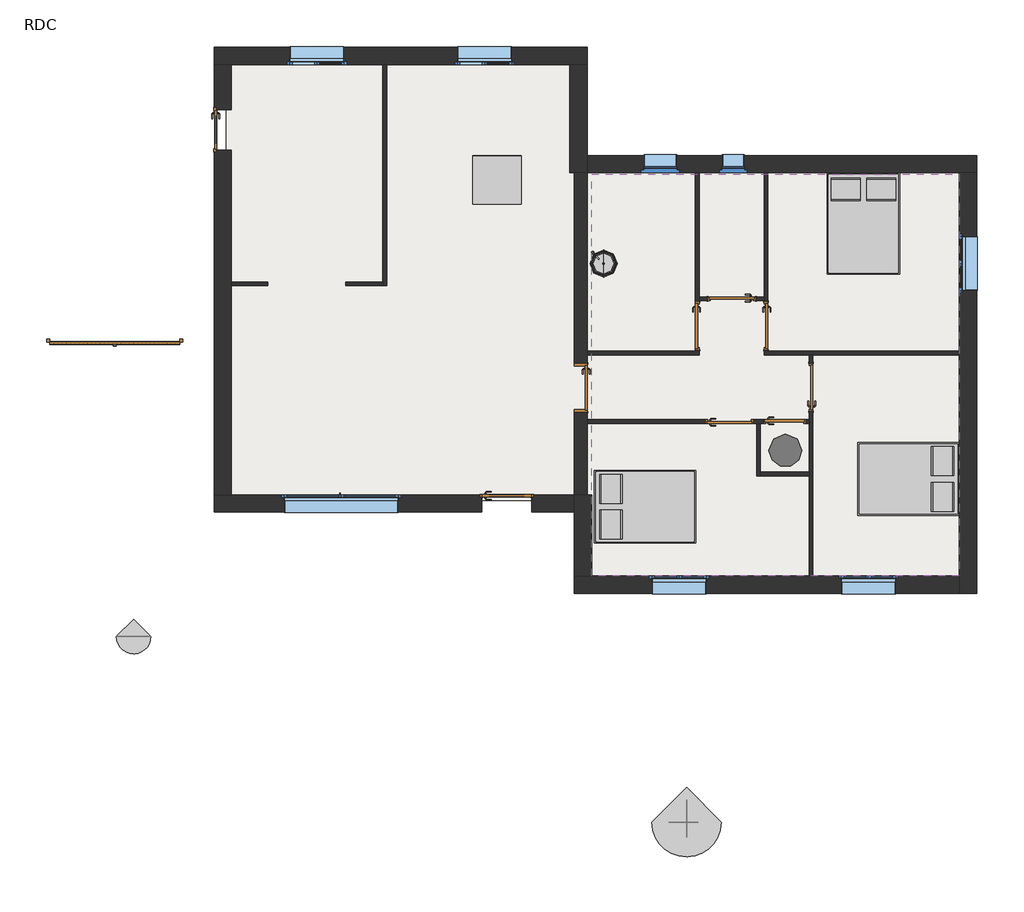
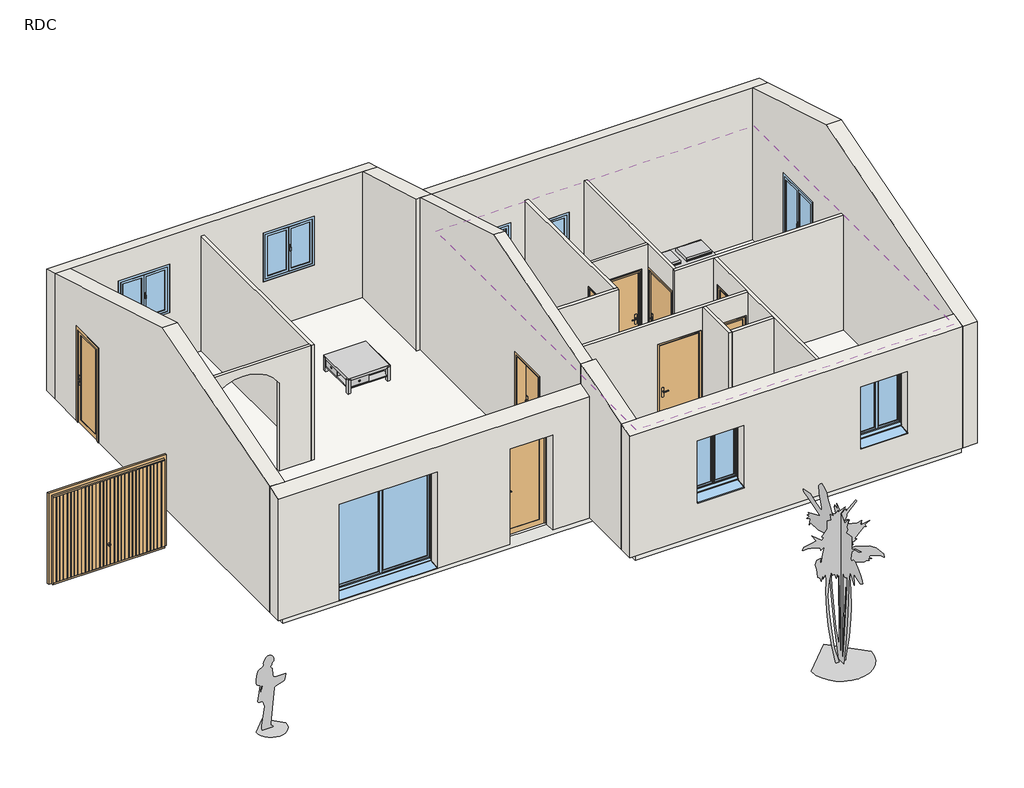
# One storey, incomplete: 20 walls, 10 doors, 8 windows, 4 furniture elements, 2 flow terminals, 1 covering, 1 geographic element, 1 proxy, 1 slab.
"""IFC4 building model written with IfcOpenShell, lengths in millimetres."""

from ifc_helpers import new_model, si_unit, point, frame, frame_2d, origin, origin_with_axes, place, context, project, spatial, polyline, circle_curve, trimmed, segment, composite_curve, outline, extrude, faceted_brep, transform, mapped, element, save
from components import entourage_7b1a36b3, door_2_4m_x_2m_68821987, ext_simple_6eb875e1, int_simple_pp_0_73m_x_2_04m_d65dadfb, int_simple_pp_0_83m_x_2_04m_8f139ac8, int_simple_pp_0_83m_x_2_04m_a8378473, int_simple_pp_0_83m_x_2_04m_8f699385, panneau_plein_ouverture_ext_0_73m_x_2_10m_1ae509ba, flow_terminal_82346989, flow_terminal_ca0f13d3, lit_double_01_1346mm_x_1880mm_c10bd567, table_basse_900mm_x_900mm_x_350mm_34ae0bd3, rpc_arbre_tropical_cbeb6f3c, window_1_vantail_droit_5c4c0683, window_1_vantail_droit_0_40m_x_0_75m_appui_alu_6d79ef9c, window_1m_x_1_05m_appui_alu_b6acc50f, window_1m_x_1_35m_appui_alu_10ebf275, window_2_10_x_2_15_0009b032

model = new_model("IFC4")

# Units and contexts
model_context = context("Model", 3, world=origin())
ifc_project = project(units=[si_unit("LENGTHUNIT", "METRE", prefix="MILLI")], contexts=[model_context])

# Site, building, storey
site = spatial("IfcSite", under=ifc_project)
building = spatial("IfcBuilding", under=site)
storey = spatial("IfcBuildingStorey", under=building, Name="RDC", Elevation=0.0)

# Proxy
placement = place(None, origin())
entourage_shape = entourage_7b1a36b3(model_context)
element("IfcBuildingElementProxy", 1, Name="RPC Femme : Lisa", ObjectType="RPC Femme : Lisa", at=placement, inside=storey, context=model_context, shape_type="MappedRepresentation", body=[
    mapped(entourage_shape, transform((-19497.6549107, -1912.6202268, -500.0), x_axis=(1.0, 0.0, 0.0), y_axis=(0.0, 1.0, 0.0), z_axis=(0.0, 0.0, 1.0))),
])

# Covering
element("IfcCovering", 2, ObjectType="Plafond avec isolation 20 cm", at=placement, inside=storey, context=model_context, shape_type="SweptSolid", body=[
    extrude(outline(polyline([(-11428.2926959, 8667.3797732), (-11428.2926959, 707.3797732), (-17688.2926959, 707.3797732), (-17688.2926959, 8667.3797732), (-11428.2926959, 8667.3797732)])), frame((0.0, 0.0, 2600.0), z_axis=(0.0, 0.0, 1.0), x_axis=(1.0, 0.0, 0.0)), (0.0, 0.0, 1.0), 220.0),
    extrude(outline(polyline([(-4228.2926959, 6637.3797732), (-4228.2926959, -792.6202268), (-11028.2926959, -792.6202268), (-11028.2926959, 6637.3797732), (-4228.2926959, 6637.3797732)])), frame((0.0, 0.0, 2600.0), z_axis=(0.0, 0.0, 1.0), x_axis=(1.0, 0.0, 0.0)), (0.0, 0.0, 1.0), 220.0),
])

# Doors
door_2_4m_x_2m_shape = door_2_4m_x_2m_68821987(model_context)
element("IfcDoor", 3, ObjectType="Garage basculante : 2.4m x 2m", at=placement, inside=storey, context=model_context, shape_type="MappedRepresentation", body=[
    mapped(door_2_4m_x_2m_shape, transform((-19863.2926959, 3073.8274475, 0.0), x_axis=(-1.0, 0.0, 0.0), y_axis=(0.0, -1.0, 0.0), z_axis=(0.0, 0.0, 1.0))),
])
ext_simple_shape = ext_simple_6eb875e1(model_context)
element("IfcDoor", 4, ObjectType="Ext. Simple : Lisse - 0.90 m x 2.15 m", at=placement, inside=storey, context=model_context, shape_type="MappedRepresentation", body=[
    mapped(ext_simple_shape, transform((-12588.2926959, 555.3797732, 0.0), x_axis=(1.0, 0.0, 0.0), y_axis=(0.0, 1.0, 0.0), z_axis=(0.0, 0.0, 1.0))),
])
int_simple_pp_0_73m_x_2_04m_shape = int_simple_pp_0_73m_x_2_04m_d65dadfb(model_context)
element("IfcDoor", 5, ObjectType="Int. Simple : PP (0.73m x 2.04m)", at=placement, inside=storey, context=model_context, shape_type="MappedRepresentation", body=[
    mapped(int_simple_pp_0_73m_x_2_04m_shape, transform((-7423.2926959, 2062.3797732, 0.0), x_axis=(1.0, 0.0, 0.0), y_axis=(0.0, 1.0, 0.0), z_axis=(0.0, 0.0, 1.0))),
])
int_simple_pp_0_83m_x_2_04m_shape = int_simple_pp_0_83m_x_2_04m_8f139ac8(model_context)
element("IfcDoor", 6, ObjectType="Int. Simple : PP (0.83m x 2.04m)", at=placement, inside=storey, context=model_context, shape_type="MappedRepresentation", body=[
    mapped(int_simple_pp_0_83m_x_2_04m_shape, transform((-9073.2926959, 3797.3797732, 0.0), x_axis=(0.0, -1.0, 0.0), y_axis=(1.0, 0.0, 0.0), z_axis=(0.0, 0.0, 1.0))),
])
element("IfcDoor", 7, ObjectType="Int. Simple : PP (0.83m x 2.04m)", at=placement, inside=storey, context=model_context, shape_type="MappedRepresentation", body=[
    mapped(int_simple_pp_0_83m_x_2_04m_shape, transform((-8473.2926959, 4332.3797732, 0.0), x_axis=(-1.0, 0.0, 0.0), y_axis=(0.0, -1.0, 0.0), z_axis=(0.0, 0.0, 1.0))),
])
element("IfcDoor", 8, ObjectType="Int. Simple : PP (0.83m x 2.04m)", at=placement, inside=storey, context=model_context, shape_type="MappedRepresentation", body=[
    mapped(int_simple_pp_0_83m_x_2_04m_shape, transform((-6973.2926959, 2732.3797732, 0.0), x_axis=(0.0, 1.0, 0.0), y_axis=(-1.0, 0.0, 0.0), z_axis=(0.0, 0.0, 1.0))),
])
element("IfcDoor", 9, ObjectType="Int. Simple : PP (0.83m x 2.04m)", at=placement, inside=storey, context=model_context, shape_type="MappedRepresentation", body=[
    mapped(int_simple_pp_0_83m_x_2_04m_shape, transform((-8443.2926959, 2062.3797732, 0.0), x_axis=(1.0, 0.0, 0.0), y_axis=(0.0, 1.0, 0.0), z_axis=(0.0, 0.0, 1.0))),
])
int_simple_pp_0_83m_x_2_04m_2_shape = int_simple_pp_0_83m_x_2_04m_a8378473(model_context)
element("IfcDoor", 10, ObjectType="Int. Simple : PP (0.83m x 2.04m)", at=placement, inside=storey, context=model_context, shape_type="MappedRepresentation", body=[
    mapped(int_simple_pp_0_83m_x_2_04m_2_shape, transform((-7803.2926959, 3797.3797732, 0.0), x_axis=(0.0, -1.0, 0.0), y_axis=(1.0, 0.0, 0.0), z_axis=(0.0, 0.0, 1.0))),
])
int_simple_pp_0_83m_x_2_04m_3_shape = int_simple_pp_0_83m_x_2_04m_8f699385(model_context)
element("IfcDoor", 11, ObjectType="Int. Simple : PP (0.83m x 2.04m)", at=placement, inside=storey, context=model_context, shape_type="MappedRepresentation", body=[
    mapped(int_simple_pp_0_83m_x_2_04m_3_shape, transform((-11228.2926959, 2652.3797732, 0.0), x_axis=(0.0, -1.0, 0.0), y_axis=(1.0, 0.0, 0.0), z_axis=(0.0, 0.0, 1.0))),
])
panneau_plein_ouverture_ext_0_73m_x_2_10m_shape = panneau_plein_ouverture_ext_0_73m_x_2_10m_1ae509ba(model_context)
element("IfcDoor", 12, ObjectType="Panneau Plein - Ouverture ext : 0.73m x 2.10m", at=placement, inside=storey, context=model_context, shape_type="MappedRepresentation", body=[
    mapped(panneau_plein_ouverture_ext_0_73m_x_2_10m_shape, transform((-17844.4991256, 7462.3797732, 0.0), x_axis=(0.0, -1.0, 0.0), y_axis=(1.0, 0.0, 0.0), z_axis=(0.0, 0.0, 1.0))),
])

# Flow terminals
flow_terminal_shape = flow_terminal_82346989(model_context)
element("IfcFlowTerminal", 13, ObjectType="Lavabo moderne : Lavabo moderne", at=placement, inside=storey, context=model_context, shape_type="MappedRepresentation", body=[
    mapped(flow_terminal_shape, transform((-11108.2926959, 4962.5299066, 0.0), x_axis=(0.0, 1.0, 0.0), y_axis=(-1.0, 0.0, 0.0), z_axis=(0.0, 0.0, 1.0))),
])
flow_terminal_2_shape = flow_terminal_ca0f13d3(model_context)
element("IfcFlowTerminal", 14, ObjectType="Chauffe eau : Chauffe eau", at=placement, inside=storey, context=model_context, shape_type="MappedRepresentation", body=[
    mapped(flow_terminal_2_shape, transform((-7443.6942941, 1527.3797732, 0.0), x_axis=(1.0, 0.0, 0.0), y_axis=(0.0, 1.0, 0.0), z_axis=(0.0, 0.0, 1.0))),
])

# Furniture
lit_double_01_1346mm_x_1880mm_shape = lit_double_01_1346mm_x_1880mm_c10bd567(model_context)
element("IfcFurniture", 15, ObjectType="Lit double - 01 : 1346mm x 1880mm", at=placement, inside=storey, context=model_context, shape_type="MappedRepresentation", body=[
    mapped(lit_double_01_1346mm_x_1880mm_shape, transform((-6340.4451549, 5961.8092814, 0.0), x_axis=(1.0, 0.0, 0.0), y_axis=(0.0, 1.0, 0.0), z_axis=(0.0, 0.0, 1.0))),
])
element("IfcFurniture", 16, ObjectType="Lit double - 01 : 1346mm x 1880mm", at=placement, inside=storey, context=model_context, shape_type="MappedRepresentation", body=[
    mapped(lit_double_01_1346mm_x_1880mm_shape, transform((-10275.7222041, 148.2273142, 0.0), x_axis=(0.0, 1.0, 0.0), y_axis=(-1.0, 0.0, 0.0), z_axis=(0.0, 0.0, 1.0))),
])
element("IfcFurniture", 17, ObjectType="Lit double - 01 : 1346mm x 1880mm", at=placement, inside=storey, context=model_context, shape_type="MappedRepresentation", body=[
    mapped(lit_double_01_1346mm_x_1880mm_shape, transform((-4933.8631877, 1339.5322322, 0.0), x_axis=(0.0, -1.0, 0.0), y_axis=(1.0, 0.0, 0.0), z_axis=(0.0, 0.0, 1.0))),
])
table_basse_900mm_x_900mm_x_350mm_shape = table_basse_900mm_x_900mm_x_350mm_34ae0bd3(model_context)
element("IfcFurniture", 18, ObjectType="Table basse : 900mm x 900mm x 350mm", at=placement, inside=storey, context=model_context, shape_type="MappedRepresentation", body=[
    mapped(table_basse_900mm_x_900mm_x_350mm_shape, transform((-12768.2926959, 6261.2681964, 0.0), x_axis=(1.0, 0.0, 0.0), y_axis=(0.0, 1.0, 0.0), z_axis=(0.0, 0.0, 1.0))),
])

# Geographic element
rpc_arbre_tropical_shape = rpc_arbre_tropical_cbeb6f3c(model_context)
element("IfcGeographicElement", 19, ObjectType="RPC Arbre - Tropical : Palmier princesse - 3.6 mètres", at=placement, inside=storey, context=model_context, shape_type="MappedRepresentation", body=[
    mapped(rpc_arbre_tropical_shape, transform((-9273.2672874, -5348.1831924, -500.0), x_axis=(1.0, 0.0, 0.0), y_axis=(0.0, 1.0, 0.0), z_axis=(0.0, 0.0, 1.0))),
])

# Slab
element("IfcSlab", 20, ObjectType="dalle béton 20 cm + 7 cm carrellage", at=placement, inside=storey, context=model_context, shape_type="SweptSolid", body=[
    extrude(outline(polyline([(-11348.2926959, 8767.3797732), (-11348.2926959, 6767.3797732), (-4128.2926959, 6767.3797732), (-4128.2926959, -892.6202268), (-11108.2926959, -892.6202268), (-11108.2926959, 607.3797732), (-17788.2926959, 607.3797732), (-17788.2926959, 8767.3797732), (-11348.2926959, 8767.3797732)])), frame((0.0, 0.0, -270.0), z_axis=(0.0, 0.0, 1.0), x_axis=(1.0, 0.0, 0.0)), (0.0, 0.0, 1.0), 270.0),
])

# Walls
element("IfcWall", 21, ObjectType="Int. Plâtre 70 mm", at=placement, inside=storey, context=model_context, shape_type="Brep", body=[
    faceted_brep([(-14888.2926959, 8667.3797732, 0.0), (-14888.2926959, 4647.3797732, 0.0), (-14888.2926959, 4577.3797732, 0.0), (-14888.2926959, 4577.3797732, 2600.0), (-14888.2926959, 4647.3797732, 2600.0), (-14888.2926959, 8667.3797732, 2600.0), (-14818.2926959, 8667.3797732, 0.0), (-14818.2926959, 8667.3797732, 2600.0), (-14818.2926959, 4577.3797732, 2600.0), (-14818.2926959, 4577.3797732, 0.0)], [[[0, 1, 2, 3, 4, 5]], [[6, 7, 8, 9]], [[2, 1, 0, 6, 9]], [[5, 4, 3, 8, 7]], [[0, 5, 7, 6]], [[3, 2, 9, 8]]]),
])
element("IfcWall", 22, ObjectType="Int. Plâtre 70 mm", at=placement, inside=storey, context=model_context, shape_type="SweptSolid", body=[
    extrude(outline(composite_curve([segment(polyline([(0.0, -14888.2926959), (2600.0, -14888.2926959), (2600.0, -17688.2926959), (0.0, -17688.2926959), (0.0, -17018.2926959), (2119.049891, -17018.2926959)]), True, "CONTINUOUS"), segment(trimmed(circle_curve(frame_2d((1508.9510549, -16341.5617843)), 911.1450579), [point((2119.049891, -17018.2926959))], [point((2000.0, -15574.0617843))], True, "CARTESIAN"), True, "CONTINUOUS"), segment(polyline([(2000.0, -15574.0617843), (0.0, -15574.0617843), (0.0, -14888.2926959)]), True, "CONTINUOUS")], self_intersect=False)), frame((0.0, 4577.3797732, 0.0), z_axis=(0.0, 1.0, 0.0), x_axis=(0.0, 0.0, 1.0)), (0.0, 0.0, 1.0), 70.0),
])
element("IfcWall", 23, ObjectType="Int. Plâtre 70 mm", at=placement, inside=storey, context=model_context, shape_type="Brep", body=[
    faceted_brep([(-9108.2926959, 3367.3797732, 2600.0), (-9108.2926959, 6667.3797732, 2600.0), (-9108.2926959, 6667.3797732, 0.0), (-9108.2926959, 4282.3797732, 0.0), (-9108.2926959, 4282.3797732, 2075.0), (-9108.2926959, 3382.3797732, 2075.0), (-9108.2926959, 3382.3797732, 0.0), (-9108.2926959, 3367.3797732, 0.0), (-9038.2926959, 6667.3797732, 2600.0), (-9038.2926959, 4367.3797732, 2600.0), (-9038.2926959, 4297.3797732, 2600.0), (-9038.2926959, 3367.3797732, 2600.0), (-9038.2926959, 3367.3797732, 0.0), (-9038.2926959, 3382.3797732, 0.0), (-9038.2926959, 3382.3797732, 2075.0), (-9038.2926959, 4282.3797732, 2075.0), (-9038.2926959, 4282.3797732, 0.0), (-9038.2926959, 4297.3797732, 0.0), (-9038.2926959, 4367.3797732, 0.0), (-9038.2926959, 6667.3797732, 0.0)], [[[0, 1, 2, 3, 4, 5, 6, 7]], [[8, 9, 10, 11, 12, 13, 14, 15, 16, 17, 18, 19]], [[2, 19, 18, 17, 16, 3]], [[12, 7, 6, 13]], [[1, 0, 11, 10, 9, 8]], [[2, 1, 8, 19]], [[0, 7, 12, 11]], [[5, 14, 13, 6]], [[14, 5, 4, 15]], [[15, 4, 3, 16]]]),
])
element("IfcWall", 24, ObjectType="Int. Plâtre 70 mm", at=placement, inside=storey, context=model_context, shape_type="SweptSolid", body=[
    extrude(outline(polyline([(2600.0, -7838.2926959), (2600.0, -9038.2926959), (0.0, -9038.2926959), (0.0, -8888.2926959), (2075.0, -8888.2926959), (2075.0, -7988.2926959), (0.0, -7988.2926959), (0.0, -7838.2926959), (2600.0, -7838.2926959)])), frame((0.0, 4297.3797732, 0.0), z_axis=(0.0, 1.0, 0.0), x_axis=(0.0, 0.0, 1.0)), (0.0, 0.0, 1.0), 70.0),
])
element("IfcWall", 25, ObjectType="Int. Plâtre 70 mm", at=placement, inside=storey, context=model_context, shape_type="Brep", body=[
    faceted_brep([(-7838.2926959, 3367.3797732, 2600.0), (-7838.2926959, 4297.3797732, 2600.0), (-7838.2926959, 4367.3797732, 2600.0), (-7838.2926959, 6667.3797732, 2600.0), (-7838.2926959, 6667.3797732, 0.0), (-7838.2926959, 4367.3797732, 0.0), (-7838.2926959, 4297.3797732, 0.0), (-7838.2926959, 4282.3797732, 0.0), (-7838.2926959, 4282.3797732, 2075.0), (-7838.2926959, 3382.3797732, 2075.0), (-7838.2926959, 3382.3797732, 0.0), (-7838.2926959, 3367.3797732, 0.0), (-7768.2926959, 6667.3797732, 2600.0), (-7768.2926959, 3367.3797732, 2600.0), (-7768.2926959, 3367.3797732, 0.0), (-7768.2926959, 3382.3797732, 0.0), (-7768.2926959, 3382.3797732, 2075.0), (-7768.2926959, 4282.3797732, 2075.0), (-7768.2926959, 4282.3797732, 0.0), (-7768.2926959, 6667.3797732, 0.0)], [[[0, 1, 2, 3, 4, 5, 6, 7, 8, 9, 10, 11]], [[12, 13, 14, 15, 16, 17, 18, 19]], [[4, 19, 18, 7, 6, 5]], [[14, 11, 10, 15]], [[3, 2, 1, 0, 13, 12]], [[4, 3, 12, 19]], [[0, 11, 14, 13]], [[9, 16, 15, 10]], [[16, 9, 8, 17]], [[17, 8, 7, 18]]]),
])
element("IfcWall", 26, ObjectType="Int. Plâtre 70 mm", at=placement, inside=storey, context=model_context, shape_type="Brep", body=[
    faceted_brep([(-4228.2926959, 3367.3797732, 0.0), (-7768.2926959, 3367.3797732, 0.0), (-7838.2926959, 3367.3797732, 0.0), (-7838.2926959, 3367.3797732, 2600.0), (-7768.2926959, 3367.3797732, 2600.0), (-4228.2926959, 3367.3797732, 2600.0), (-4228.2926959, 3297.3797732, 0.0), (-4228.2926959, 3297.3797732, 2600.0), (-6938.2926959, 3297.3797732, 2600.0), (-7008.2926959, 3297.3797732, 2600.0), (-7838.2926959, 3297.3797732, 2600.0), (-7838.2926959, 3297.3797732, 0.0), (-7008.2926959, 3297.3797732, 0.0), (-6938.2926959, 3297.3797732, 0.0)], [[[0, 1, 2, 3, 4, 5]], [[6, 7, 8, 9, 10, 11, 12, 13]], [[2, 1, 0, 6, 13, 12, 11]], [[5, 4, 3, 10, 9, 8, 7]], [[0, 5, 7, 6]], [[3, 2, 11, 10]]]),
])
element("IfcWall", 27, ObjectType="Int. Plâtre 70 mm", at=placement, inside=storey, context=model_context, shape_type="Brep", body=[
    faceted_brep([(-11108.2926959, 3297.3797732, 0.0), (-9038.2926959, 3297.3797732, 0.0), (-9038.2926959, 3297.3797732, 2600.0), (-11108.2926959, 3297.3797732, 2600.0), (-11108.2926959, 3367.3797732, 0.0), (-11108.2926959, 3367.3797732, 2600.0), (-9108.2926959, 3367.3797732, 2600.0), (-9038.2926959, 3367.3797732, 2600.0), (-9038.2926959, 3367.3797732, 0.0), (-9108.2926959, 3367.3797732, 0.0)], [[[0, 1, 2, 3]], [[4, 5, 6, 7, 8, 9]], [[1, 0, 4, 9, 8]], [[3, 2, 7, 6, 5]], [[0, 3, 5, 4]], [[2, 1, 8, 7]]]),
])
element("IfcWall", 28, ObjectType="Int. Plâtre 70 mm", at=placement, inside=storey, context=model_context, shape_type="Brep", body=[
    faceted_brep([(-7008.2926959, 2027.3797732, 2600.0), (-7908.2926959, 2027.3797732, 2600.0), (-7978.2926959, 2027.3797732, 2600.0), (-11108.2926959, 2027.3797732, 2600.0), (-11108.2926959, 2027.3797732, 0.0), (-8928.2926959, 2027.3797732, 0.0), (-8928.2926959, 2027.3797732, 2075.0), (-8028.2926959, 2027.3797732, 2075.0), (-8028.2926959, 2027.3797732, 0.0), (-7978.2926959, 2027.3797732, 0.0), (-7908.2926959, 2027.3797732, 0.0), (-7858.2926959, 2027.3797732, 0.0), (-7858.2926959, 2027.3797732, 2075.0), (-7058.2926959, 2027.3797732, 2075.0), (-7058.2926959, 2027.3797732, 0.0), (-7008.2926959, 2027.3797732, 0.0), (-11108.2926959, 2097.3797732, 2600.0), (-7008.2926959, 2097.3797732, 2600.0), (-7008.2926959, 2097.3797732, 0.0), (-7058.2926959, 2097.3797732, 0.0), (-7058.2926959, 2097.3797732, 2075.0), (-7858.2926959, 2097.3797732, 2075.0), (-7858.2926959, 2097.3797732, 0.0), (-8028.2926959, 2097.3797732, 0.0), (-8028.2926959, 2097.3797732, 2075.0), (-8928.2926959, 2097.3797732, 2075.0), (-8928.2926959, 2097.3797732, 0.0), (-11108.2926959, 2097.3797732, 0.0)], [[[0, 1, 2, 3, 4, 5, 6, 7, 8, 9, 10, 11, 12, 13, 14, 15]], [[16, 17, 18, 19, 20, 21, 22, 23, 24, 25, 26, 27]], [[4, 27, 26, 5]], [[18, 15, 14, 19]], [[8, 23, 22, 11, 10, 9]], [[3, 2, 1, 0, 17, 16]], [[4, 3, 16, 27]], [[0, 15, 18, 17]], [[7, 24, 23, 8]], [[24, 7, 6, 25]], [[25, 6, 5, 26]], [[13, 20, 19, 14]], [[20, 13, 12, 21]], [[21, 12, 11, 22]]]),
])
element("IfcWall", 29, ObjectType="Int. Plâtre 70 mm", at=placement, inside=storey, context=model_context, shape_type="Brep", body=[
    faceted_brep([(-7008.2926959, -792.6202268, 0.0), (-7008.2926959, -792.6202268, 2600.0), (-7008.2926959, 1057.3797732, 2600.0), (-7008.2926959, 1127.3797732, 2600.0), (-7008.2926959, 2027.3797732, 2600.0), (-7008.2926959, 2097.3797732, 2600.0), (-7008.2926959, 3297.3797732, 2600.0), (-7008.2926959, 3297.3797732, 0.0), (-7008.2926959, 3147.3797732, 0.0), (-7008.2926959, 3147.3797732, 2075.0), (-7008.2926959, 2247.3797732, 2075.0), (-7008.2926959, 2247.3797732, 0.0), (-7008.2926959, 2097.3797732, 0.0), (-7008.2926959, 2027.3797732, 0.0), (-7008.2926959, 1127.3797732, 0.0), (-7008.2926959, 1057.3797732, 0.0), (-6938.2926959, -792.6202268, 2600.0), (-6938.2926959, -792.6202268, 0.0), (-6938.2926959, 2247.3797732, 0.0), (-6938.2926959, 2247.3797732, 2075.0), (-6938.2926959, 3147.3797732, 2075.0), (-6938.2926959, 3147.3797732, 0.0), (-6938.2926959, 3297.3797732, 0.0), (-6938.2926959, 3297.3797732, 2600.0)], [[[0, 1, 2, 3, 4, 5, 6, 7, 8, 9, 10, 11, 12, 13, 14, 15]], [[16, 17, 18, 19, 20, 21, 22, 23]], [[17, 0, 15, 14, 13, 12, 11, 18]], [[7, 22, 21, 8]], [[1, 0, 17, 16]], [[6, 5, 4, 3, 2, 1, 16, 23]], [[7, 6, 23, 22]], [[20, 9, 8, 21]], [[9, 20, 19, 10]], [[10, 19, 18, 11]]]),
])
element("IfcWall", 30, ObjectType="Int. Plâtre 70 mm", at=placement, inside=storey, context=model_context, shape_type="Brep", body=[
    faceted_brep([(-7978.2926959, 2027.3797732, 0.0), (-7978.2926959, 1057.3797732, 0.0), (-7978.2926959, 1057.3797732, 2600.0), (-7978.2926959, 2027.3797732, 2600.0), (-7908.2926959, 2027.3797732, 0.0), (-7908.2926959, 2027.3797732, 2600.0), (-7908.2926959, 1127.3797732, 2600.0), (-7908.2926959, 1057.3797732, 2600.0), (-7908.2926959, 1057.3797732, 0.0), (-7908.2926959, 1127.3797732, 0.0)], [[[0, 1, 2, 3]], [[4, 5, 6, 7, 8, 9]], [[1, 0, 4, 9, 8]], [[3, 2, 7, 6, 5]], [[0, 3, 5, 4]], [[2, 1, 8, 7]]]),
])
element("IfcWall", 31, ObjectType="Int. Plâtre 70 mm", at=placement, inside=storey, context=model_context, shape_type="SweptSolid", body=[
    extrude(outline(polyline([(-7008.2926959, 1057.3797732), (-7908.2926959, 1057.3797732), (-7908.2926959, 1127.3797732), (-7008.2926959, 1127.3797732), (-7008.2926959, 1057.3797732)])), origin_with_axes(), (0.0, 0.0, 1.0), 2600.0),
])
element("IfcWall", 32, ObjectType="Ext. Parpaing 20 + Isolant 10", at=placement, inside=storey, context=model_context, shape_type="Brep", body=[
    faceted_brep([(-18008.2926959, 8667.3797732, 0.0), (-17688.2926959, 8667.3797732, 0.0), (-11428.2926959, 8667.3797732, 0.0), (-11108.2926959, 8667.3797732, 0.0), (-11108.2926959, 8667.3797732, 2846.0), (-11428.2926959, 8667.3797732, 2846.0), (-17688.2926959, 8667.3797732, 2846.0), (-18008.2926959, 8667.3797732, 2846.0), (-15558.2926959, 8667.3797732, 1100.0), (-16658.2926959, 8667.3797732, 1100.0), (-16658.2926959, 8667.3797732, 2200.0), (-15558.2926959, 8667.3797732, 2200.0), (-12458.2926959, 8667.3797732, 1100.0), (-13558.2926959, 8667.3797732, 1100.0), (-13558.2926959, 8667.3797732, 2200.0), (-12458.2926959, 8667.3797732, 2200.0), (-18008.2926959, 8987.3797732, 0.0), (-18008.2926959, 8987.3797732, 2750.0), (-11108.2926959, 8987.3797732, 2750.0), (-11108.2926959, 8987.3797732, 0.0), (-16608.2926959, 8987.3797732, 2150.0), (-16608.2926959, 8987.3797732, 1059.7749835), (-15608.2926959, 8987.3797732, 1059.7749835), (-15608.2926959, 8987.3797732, 2150.0), (-13508.2926959, 8987.3797732, 2150.0), (-13508.2926959, 8987.3797732, 1059.7749835), (-12508.2926959, 8987.3797732, 1059.7749835), (-12508.2926959, 8987.3797732, 2150.0), (-16608.2926959, 8747.3797732, 1100.0), (-16608.2926959, 8747.3797732, 1085.0), (-16608.2926959, 8767.3797732, 2150.0), (-16608.2926959, 8767.3797732, 1100.0), (-15608.2926959, 8747.3797732, 1085.0), (-15608.2926959, 8747.3797732, 1100.0), (-15608.2926959, 8767.3797732, 1100.0), (-15608.2926959, 8767.3797732, 2150.0), (-16618.2926959, 8767.3797732, 1100.0), (-16618.2926959, 8717.3797732, 1100.0), (-16658.2926959, 8717.3797732, 1100.0), (-15558.2926959, 8717.3797732, 1100.0), (-15598.2926959, 8717.3797732, 1100.0), (-15598.2926959, 8767.3797732, 1100.0), (-16658.2926959, 8717.3797732, 2200.0), (-16618.2926959, 8717.3797732, 2160.0), (-15598.2926959, 8717.3797732, 2160.0), (-15558.2926959, 8717.3797732, 2200.0), (-16618.2926959, 8767.3797732, 2160.0), (-15598.2926959, 8767.3797732, 2160.0), (-13508.2926959, 8747.3797732, 1100.0), (-13508.2926959, 8747.3797732, 1085.0), (-13508.2926959, 8767.3797732, 2150.0), (-13508.2926959, 8767.3797732, 1100.0), (-12508.2926959, 8747.3797732, 1085.0), (-12508.2926959, 8747.3797732, 1100.0), (-12508.2926959, 8767.3797732, 1100.0), (-12508.2926959, 8767.3797732, 2150.0), (-13518.2926959, 8767.3797732, 1100.0), (-13518.2926959, 8717.3797732, 1100.0), (-13558.2926959, 8717.3797732, 1100.0), (-12458.2926959, 8717.3797732, 1100.0), (-12498.2926959, 8717.3797732, 1100.0), (-12498.2926959, 8767.3797732, 1100.0), (-13558.2926959, 8717.3797732, 2200.0), (-13518.2926959, 8717.3797732, 2160.0), (-12498.2926959, 8717.3797732, 2160.0), (-12458.2926959, 8717.3797732, 2200.0), (-13518.2926959, 8767.3797732, 2160.0), (-12498.2926959, 8767.3797732, 2160.0)], [[[0, 1, 2, 3, 4, 5, 6, 7], [8, 9, 10, 11], [12, 13, 14, 15]], [[16, 17, 18, 19], [20, 21, 22, 23], [24, 25, 26, 27]], [[3, 2, 1, 0, 16, 19]], [[4, 3, 19, 18]], [[0, 7, 17, 16]], [[28, 29, 21, 20, 30, 31]], [[32, 33, 34, 35, 23, 22]], [[29, 32, 22, 21]], [[29, 28, 33, 32]], [[20, 23, 35, 30]], [[33, 28, 31, 36, 37, 38, 9, 8, 39, 40, 41, 34]], [[9, 38, 42, 10]], [[38, 37, 43, 44, 40, 39, 45, 42]], [[37, 36, 46, 43]], [[36, 31, 30, 35, 34, 41, 47, 46]], [[10, 42, 45, 11]], [[44, 43, 46, 47]], [[45, 39, 8, 11]], [[40, 44, 47, 41]], [[48, 49, 25, 24, 50, 51]], [[52, 53, 54, 55, 27, 26]], [[49, 52, 26, 25]], [[49, 48, 53, 52]], [[24, 27, 55, 50]], [[53, 48, 51, 56, 57, 58, 13, 12, 59, 60, 61, 54]], [[13, 58, 62, 14]], [[58, 57, 63, 64, 60, 59, 65, 62]], [[57, 56, 66, 63]], [[56, 51, 50, 55, 54, 61, 67, 66]], [[14, 62, 65, 15]], [[64, 63, 66, 67]], [[65, 59, 12, 15]], [[60, 64, 67, 61]], [[7, 6, 5, 4, 18, 17]]]),
])
element("IfcWall", 33, ObjectType="Ext. Parpaing 20 + Isolant 10", at=placement, inside=storey, context=model_context, shape_type="Brep", body=[
    faceted_brep([(-11428.2926959, 8667.3797732, 0.0), (-11428.2926959, 6667.3797732, 0.0), (-11428.2926959, 6667.3797732, 3446.0), (-11428.2926959, 8667.3797732, 2846.0), (-11108.2926959, 8667.3797732, 0.0), (-11108.2926959, 8667.3797732, 2846.0), (-11108.2926959, 6987.3797732, 3350.0), (-11108.2926959, 6667.3797732, 3446.0), (-11108.2926959, 6667.3797732, 0.0), (-11108.2926959, 6987.3797732, 0.0), (-11348.2926959, 6667.3797732, 0.0), (-11348.2926959, 6667.3797732, 3446.0)], [[[0, 1, 2, 3]], [[4, 5, 6, 7, 8, 9]], [[1, 0, 4, 9, 8, 10]], [[0, 3, 5, 4]], [[2, 1, 10, 8, 7, 11]], [[3, 2, 11, 7, 6, 5]]]),
])
element("IfcWall", 34, ObjectType="Ext. Parpaing 20 + Isolant 10", at=placement, inside=storey, context=model_context, shape_type="Brep", body=[
    faceted_brep([(-11108.2926959, 6667.3797732, 0.0), (-4228.2926959, 6667.3797732, 0.0), (-3908.2926959, 6667.3797732, 0.0), (-3908.2926959, 6667.3797732, 3446.0), (-4228.2926959, 6667.3797732, 3446.0), (-11108.2926959, 6667.3797732, 3446.0), (-9408.2926959, 6667.3797732, 1200.0), (-10108.2926959, 6667.3797732, 1200.0), (-10108.2926959, 6667.3797732, 2200.0), (-9408.2926959, 6667.3797732, 2200.0), (-8158.2926959, 6667.3797732, 1200.0), (-8658.2926959, 6667.3797732, 1200.0), (-8658.2926959, 6667.3797732, 2000.0), (-8158.2926959, 6667.3797732, 2000.0), (-11108.2926959, 6987.3797732, 0.0), (-11108.2926959, 6987.3797732, 3350.0), (-3908.2926959, 6987.3797732, 3350.0), (-3908.2926959, 6987.3797732, 0.0), (-10058.2926959, 6987.3797732, 2150.0), (-10058.2926959, 6987.3797732, 1159.7749835), (-9458.2926959, 6987.3797732, 1159.7749835), (-9458.2926959, 6987.3797732, 2150.0), (-8608.2926959, 6987.3797732, 1950.0), (-8608.2926959, 6987.3797732, 1159.7749835), (-8208.2926959, 6987.3797732, 1159.7749835), (-8208.2926959, 6987.3797732, 1950.0), (-10058.2926959, 6747.3797732, 1200.0), (-10058.2926959, 6747.3797732, 1185.0), (-10058.2926959, 6767.3797732, 2150.0), (-10058.2926959, 6767.3797732, 1200.0), (-9458.2926959, 6747.3797732, 1185.0), (-9458.2926959, 6747.3797732, 1200.0), (-9458.2926959, 6767.3797732, 1200.0), (-9458.2926959, 6767.3797732, 2150.0), (-10068.2926959, 6767.3797732, 1200.0), (-10068.2926959, 6717.3797732, 1200.0), (-10108.2926959, 6717.3797732, 1200.0), (-9408.2926959, 6717.3797732, 1200.0), (-9448.2926959, 6717.3797732, 1200.0), (-9448.2926959, 6767.3797732, 1200.0), (-10108.2926959, 6717.3797732, 2200.0), (-10068.2926959, 6717.3797732, 2160.0), (-9448.2926959, 6717.3797732, 2160.0), (-9408.2926959, 6717.3797732, 2200.0), (-10068.2926959, 6767.3797732, 2160.0), (-9448.2926959, 6767.3797732, 2160.0), (-8608.2926959, 6747.3797732, 1200.0), (-8608.2926959, 6747.3797732, 1185.0), (-8608.2926959, 6767.3797732, 1950.0), (-8608.2926959, 6767.3797732, 1200.0), (-8208.2926959, 6747.3797732, 1185.0), (-8208.2926959, 6747.3797732, 1200.0), (-8208.2926959, 6767.3797732, 1200.0), (-8208.2926959, 6767.3797732, 1950.0), (-8618.2926959, 6767.3797732, 1200.0), (-8618.2926959, 6717.3797732, 1200.0), (-8658.2926959, 6717.3797732, 1200.0), (-8158.2926959, 6717.3797732, 1200.0), (-8198.2926959, 6717.3797732, 1200.0), (-8198.2926959, 6767.3797732, 1200.0), (-8658.2926959, 6717.3797732, 2000.0), (-8618.2926959, 6717.3797732, 1960.0), (-8198.2926959, 6717.3797732, 1960.0), (-8158.2926959, 6717.3797732, 2000.0), (-8618.2926959, 6767.3797732, 1960.0), (-8198.2926959, 6767.3797732, 1960.0)], [[[0, 1, 2, 3, 4, 5], [6, 7, 8, 9], [10, 11, 12, 13]], [[14, 15, 16, 17], [18, 19, 20, 21], [22, 23, 24, 25]], [[2, 1, 0, 14, 17]], [[0, 5, 15, 14]], [[26, 27, 19, 18, 28, 29]], [[30, 31, 32, 33, 21, 20]], [[27, 30, 20, 19]], [[27, 26, 31, 30]], [[18, 21, 33, 28]], [[31, 26, 29, 34, 35, 36, 7, 6, 37, 38, 39, 32]], [[7, 36, 40, 8]], [[36, 35, 41, 42, 38, 37, 43, 40]], [[35, 34, 44, 41]], [[34, 29, 28, 33, 32, 39, 45, 44]], [[8, 40, 43, 9]], [[42, 41, 44, 45]], [[43, 37, 6, 9]], [[38, 42, 45, 39]], [[46, 47, 23, 22, 48, 49]], [[50, 51, 52, 53, 25, 24]], [[47, 50, 24, 23]], [[47, 46, 51, 50]], [[22, 25, 53, 48]], [[51, 46, 49, 54, 55, 56, 11, 10, 57, 58, 59, 52]], [[11, 56, 60, 12]], [[56, 55, 61, 62, 58, 57, 63, 60]], [[55, 54, 64, 61]], [[54, 49, 48, 53, 52, 59, 65, 64]], [[12, 60, 63, 13]], [[62, 61, 64, 65]], [[63, 57, 10, 13]], [[58, 62, 65, 59]], [[5, 4, 3, 16, 15]], [[3, 2, 17, 16]]]),
])
element("IfcWall", 35, ObjectType="Ext. Parpaing 20 + Isolant 10", at=placement, inside=storey, context=model_context, shape_type="Brep", body=[
    faceted_brep([(-4228.2926959, 6667.3797732, 0.0), (-4228.2926959, -792.6202268, 0.0), (-4228.2926959, -1112.6202268, 0.0), (-4228.2926959, -1112.6202268, 2750.0), (-4228.2926959, -792.6202268, 2846.0), (-4228.2926959, 3937.3797732, 4265.0), (-4228.2926959, 6667.3797732, 3446.0), (-4228.2926959, 4437.3797732, 800.0), (-4228.2926959, 5537.3797732, 800.0), (-4228.2926959, 5537.3797732, 2200.0), (-4228.2926959, 4437.3797732, 2200.0), (-3908.2926959, 6667.3797732, 0.0), (-3908.2926959, 6667.3797732, 3446.0), (-3908.2926959, 3937.3797732, 4265.0), (-3908.2926959, -1112.6202268, 2750.0), (-3908.2926959, -1112.6202268, 0.0), (-3908.2926959, 5487.3797732, 2150.0), (-3908.2926959, 5487.3797732, 759.7749835), (-3908.2926959, 4487.3797732, 759.7749835), (-3908.2926959, 4487.3797732, 2150.0), (-4148.2926959, 5487.3797732, 800.0), (-4148.2926959, 5487.3797732, 785.0), (-4128.2926959, 5487.3797732, 2150.0), (-4128.2926959, 5487.3797732, 800.0), (-4148.2926959, 4487.3797732, 785.0), (-4148.2926959, 4487.3797732, 800.0), (-4128.2926959, 4487.3797732, 800.0), (-4128.2926959, 4487.3797732, 2150.0), (-4128.2926959, 5497.3797732, 800.0), (-4178.2926959, 5497.3797732, 800.0), (-4178.2926959, 5537.3797732, 800.0), (-4178.2926959, 4437.3797732, 800.0), (-4178.2926959, 4477.3797732, 800.0), (-4128.2926959, 4477.3797732, 800.0), (-4178.2926959, 5537.3797732, 2200.0), (-4178.2926959, 5497.3797732, 2160.0), (-4178.2926959, 4477.3797732, 2160.0), (-4178.2926959, 4437.3797732, 2200.0), (-4128.2926959, 5497.3797732, 2160.0), (-4128.2926959, 4477.3797732, 2160.0)], [[[0, 1, 2, 3, 4, 5, 6], [7, 8, 9, 10]], [[11, 12, 13, 14, 15], [16, 17, 18, 19]], [[2, 1, 0, 11, 15]], [[3, 2, 15, 14]], [[20, 21, 17, 16, 22, 23]], [[24, 25, 26, 27, 19, 18]], [[21, 24, 18, 17]], [[21, 20, 25, 24]], [[16, 19, 27, 22]], [[25, 20, 23, 28, 29, 30, 8, 7, 31, 32, 33, 26]], [[8, 30, 34, 9]], [[30, 29, 35, 36, 32, 31, 37, 34]], [[29, 28, 38, 35]], [[28, 23, 22, 27, 26, 33, 39, 38]], [[9, 34, 37, 10]], [[36, 35, 38, 39]], [[37, 31, 7, 10]], [[32, 36, 39, 33]], [[6, 5, 13, 12]], [[5, 4, 3, 14, 13]], [[0, 6, 12, 11]]]),
])
element("IfcWall", 36, ObjectType="Ext. Parpaing 20 + Isolant 10", at=placement, inside=storey, context=model_context, shape_type="Brep", body=[
    faceted_brep([(-4228.2926959, -792.6202268, 0.0), (-11028.2926959, -792.6202268, 0.0), (-11348.2926959, -792.6202268, 0.0), (-11348.2926959, -792.6202268, 2846.0), (-11028.2926959, -792.6202268, 2846.0), (-4228.2926959, -792.6202268, 2846.0), (-6458.2926959, -792.6202268, 800.0), (-5358.2926959, -792.6202268, 800.0), (-5358.2926959, -792.6202268, 2200.0), (-6458.2926959, -792.6202268, 2200.0), (-9958.2926959, -792.6202268, 800.0), (-8858.2926959, -792.6202268, 800.0), (-8858.2926959, -792.6202268, 2200.0), (-9958.2926959, -792.6202268, 2200.0), (-4228.2926959, -1112.6202268, 0.0), (-4228.2926959, -1112.6202268, 2750.0), (-11348.2926959, -1112.6202268, 2750.0), (-11348.2926959, -1112.6202268, 0.0), (-5408.2926959, -1112.6202268, 2150.0), (-5408.2926959, -1112.6202268, 759.7749835), (-6408.2926959, -1112.6202268, 759.7749835), (-6408.2926959, -1112.6202268, 2150.0), (-8908.2926959, -1112.6202268, 2150.0), (-8908.2926959, -1112.6202268, 759.7749835), (-9908.2926959, -1112.6202268, 759.7749835), (-9908.2926959, -1112.6202268, 2150.0), (-5408.2926959, -872.6202268, 800.0), (-5408.2926959, -872.6202268, 785.0), (-5408.2926959, -892.6202268, 2150.0), (-5408.2926959, -892.6202268, 800.0), (-6408.2926959, -872.6202268, 785.0), (-6408.2926959, -872.6202268, 800.0), (-6408.2926959, -892.6202268, 800.0), (-6408.2926959, -892.6202268, 2150.0), (-5398.2926959, -892.6202268, 800.0), (-5398.2926959, -842.6202268, 800.0), (-5358.2926959, -842.6202268, 800.0), (-6458.2926959, -842.6202268, 800.0), (-6418.2926959, -842.6202268, 800.0), (-6418.2926959, -892.6202268, 800.0), (-5358.2926959, -842.6202268, 2200.0), (-5398.2926959, -842.6202268, 2160.0), (-6418.2926959, -842.6202268, 2160.0), (-6458.2926959, -842.6202268, 2200.0), (-5398.2926959, -892.6202268, 2160.0), (-6418.2926959, -892.6202268, 2160.0), (-8908.2926959, -872.6202268, 800.0), (-8908.2926959, -872.6202268, 785.0), (-8908.2926959, -892.6202268, 2150.0), (-8908.2926959, -892.6202268, 800.0), (-9908.2926959, -872.6202268, 785.0), (-9908.2926959, -872.6202268, 800.0), (-9908.2926959, -892.6202268, 800.0), (-9908.2926959, -892.6202268, 2150.0), (-8898.2926959, -892.6202268, 800.0), (-8898.2926959, -842.6202268, 800.0), (-8858.2926959, -842.6202268, 800.0), (-9958.2926959, -842.6202268, 800.0), (-9918.2926959, -842.6202268, 800.0), (-9918.2926959, -892.6202268, 800.0), (-8858.2926959, -842.6202268, 2200.0), (-8898.2926959, -842.6202268, 2160.0), (-9918.2926959, -842.6202268, 2160.0), (-9958.2926959, -842.6202268, 2200.0), (-8898.2926959, -892.6202268, 2160.0), (-9918.2926959, -892.6202268, 2160.0)], [[[0, 1, 2, 3, 4, 5], [6, 7, 8, 9], [10, 11, 12, 13]], [[14, 15, 16, 17], [18, 19, 20, 21], [22, 23, 24, 25]], [[2, 1, 0, 14, 17]], [[0, 5, 15, 14]], [[3, 2, 17, 16]], [[26, 27, 19, 18, 28, 29]], [[30, 31, 32, 33, 21, 20]], [[27, 30, 20, 19]], [[27, 26, 31, 30]], [[18, 21, 33, 28]], [[31, 26, 29, 34, 35, 36, 7, 6, 37, 38, 39, 32]], [[7, 36, 40, 8]], [[36, 35, 41, 42, 38, 37, 43, 40]], [[35, 34, 44, 41]], [[34, 29, 28, 33, 32, 39, 45, 44]], [[8, 40, 43, 9]], [[42, 41, 44, 45]], [[43, 37, 6, 9]], [[38, 42, 45, 39]], [[46, 47, 23, 22, 48, 49]], [[50, 51, 52, 53, 25, 24]], [[47, 50, 24, 23]], [[47, 46, 51, 50]], [[22, 25, 53, 48]], [[51, 46, 49, 54, 55, 56, 11, 10, 57, 58, 59, 52]], [[11, 56, 60, 12]], [[56, 55, 61, 62, 58, 57, 63, 60]], [[55, 54, 64, 61]], [[54, 49, 48, 53, 52, 59, 65, 64]], [[12, 60, 63, 13]], [[62, 61, 64, 65]], [[63, 57, 10, 13]], [[58, 62, 65, 59]], [[5, 4, 3, 16, 15]]]),
])
element("IfcWall", 37, ObjectType="Ext. Parpaing 20 + Isolant 10", at=placement, inside=storey, context=model_context, shape_type="Brep", body=[
    faceted_brep([(-11028.2926959, -792.6202268, 0.0), (-11028.2926959, 707.3797732, 0.0), (-11028.2926959, 707.3797732, 3296.0), (-11028.2926959, -792.6202268, 2846.0), (-11348.2926959, -792.6202268, 0.0), (-11348.2926959, -792.6202268, 2846.0), (-11348.2926959, 87.3797732, 3110.0), (-11348.2926959, 707.3797732, 3296.0), (-11348.2926959, 707.3797732, 2846.0), (-11348.2926959, 707.3797732, 0.0), (-11348.2926959, 387.3797732, 0.0), (-11108.2926959, 707.3797732, 0.0), (-11108.2926959, 707.3797732, 3296.0)], [[[0, 1, 2, 3]], [[4, 5, 6, 7, 8, 9, 10]], [[1, 0, 4, 10, 9, 11]], [[0, 3, 5, 4]], [[2, 1, 11, 9, 8, 7, 12]], [[3, 2, 12, 7, 6, 5]]]),
])
element("IfcWall", 38, ObjectType="Ext. Parpaing 20 + Isolant 10", at=placement, inside=storey, context=model_context, shape_type="Brep", body=[
    faceted_brep([(-11348.2926959, 707.3797732, 2846.0), (-11348.2926959, 707.3797732, 0.0), (-12098.2926959, 707.3797732, 0.0), (-12098.2926959, 707.3797732, 2200.0), (-13098.2926959, 707.3797732, 2200.0), (-13098.2926959, 707.3797732, 0.0), (-17688.2926959, 707.3797732, 0.0), (-18008.2926959, 707.3797732, 0.0), (-18008.2926959, 707.3797732, 2846.0), (-17688.2926959, 707.3797732, 2846.0), (-16758.2926959, 707.3797732, 35.0), (-14558.2926959, 707.3797732, 35.0), (-14558.2926959, 707.3797732, 2235.0), (-16758.2926959, 707.3797732, 2235.0), (-11348.2926959, 387.3797732, 0.0), (-11348.2926959, 387.3797732, 2750.0), (-18008.2926959, 387.3797732, 2750.0), (-18008.2926959, 387.3797732, 0.0), (-13058.2926959, 387.3797732, 0.0), (-13058.2926959, 387.3797732, 2160.0), (-12138.2926959, 387.3797732, 2160.0), (-12138.2926959, 387.3797732, 0.0), (-14608.2926959, 387.3797732, 2185.0), (-14608.2926959, 387.3797732, 9.7749835), (-16708.2926959, 387.3797732, 9.7749835), (-16708.2926959, 387.3797732, 2185.0), (-12138.2926959, 607.3797732, 0.0), (-12128.2926959, 607.3797732, 0.0), (-12128.2926959, 655.3797732, 0.0), (-12098.2926959, 655.3797732, 0.0), (-13098.2926959, 655.3797732, 0.0), (-13068.2926959, 655.3797732, 0.0), (-13068.2926959, 607.3797732, 0.0), (-13058.2926959, 607.3797732, 0.0), (-14608.2926959, 627.3797732, 35.0), (-14608.2926959, 607.3797732, 2185.0), (-14608.2926959, 607.3797732, 35.0), (-16708.2926959, 627.3797732, 35.0), (-16708.2926959, 607.3797732, 35.0), (-16708.2926959, 607.3797732, 2185.0), (-14598.2926959, 607.3797732, 35.0), (-14598.2926959, 657.3797732, 35.0), (-14558.2926959, 657.3797732, 35.0), (-16758.2926959, 657.3797732, 35.0), (-16718.2926959, 657.3797732, 35.0), (-16718.2926959, 607.3797732, 35.0), (-14558.2926959, 657.3797732, 2235.0), (-14598.2926959, 657.3797732, 2195.0), (-16718.2926959, 657.3797732, 2195.0), (-16758.2926959, 657.3797732, 2235.0), (-14598.2926959, 607.3797732, 2195.0), (-16718.2926959, 607.3797732, 2195.0), (-13058.2926959, 607.3797732, 2160.0), (-12138.2926959, 607.3797732, 2160.0), (-13098.2926959, 655.3797732, 2200.0), (-12098.2926959, 655.3797732, 2200.0), (-12128.2926959, 655.3797732, 2170.0), (-13068.2926959, 655.3797732, 2170.0), (-13068.2926959, 607.3797732, 2170.0), (-12128.2926959, 607.3797732, 2170.0)], [[[0, 1, 2, 3, 4, 5, 6, 7, 8, 9], [10, 11, 12, 13]], [[14, 15, 16, 17, 18, 19, 20, 21], [22, 23, 24, 25]], [[1, 14, 21, 26, 27, 28, 29, 2]], [[17, 7, 6, 5, 30, 31, 32, 33, 18]], [[1, 0, 15, 14]], [[8, 7, 17, 16]], [[34, 23, 22, 35, 36]], [[24, 37, 38, 39, 25]], [[34, 37, 24, 23]], [[22, 25, 39, 35]], [[37, 34, 36, 40, 41, 42, 11, 10, 43, 44, 45, 38]], [[11, 42, 46, 12]], [[42, 41, 47, 48, 44, 43, 49, 46]], [[41, 40, 50, 47]], [[40, 36, 35, 39, 38, 45, 51, 50]], [[12, 46, 49, 13]], [[48, 47, 50, 51]], [[49, 43, 10, 13]], [[44, 48, 51, 45]], [[52, 53, 20, 19]], [[53, 26, 21, 20]], [[33, 52, 19, 18]], [[30, 54, 55, 29, 28, 56, 57, 31]], [[31, 57, 58, 32]], [[53, 52, 33, 32, 58, 59, 27, 26]], [[54, 30, 5, 4]], [[57, 56, 59, 58]], [[55, 54, 4, 3]], [[56, 28, 27, 59]], [[29, 55, 3, 2]], [[0, 9, 8, 16, 15]]]),
])
element("IfcWall", 39, ObjectType="Ext. Parpaing 20 + Isolant 10", at=placement, inside=storey, context=model_context, shape_type="Brep", body=[
    faceted_brep([(-17688.2926959, 707.3797732, 2846.0), (-17688.2926959, 707.3797732, 0.0), (-17688.2926959, 7087.3797732, 0.0), (-17688.2926959, 7087.3797732, 2110.0), (-17688.2926959, 7837.3797732, 2110.0), (-17688.2926959, 7837.3797732, 0.0), (-17688.2926959, 8667.3797732, 0.0), (-17688.2926959, 8667.3797732, 2846.0), (-17688.2926959, 4687.3797732, 4040.0), (-18008.2926959, 707.3797732, 0.0), (-18008.2926959, 707.3797732, 2846.0), (-18008.2926959, 4687.3797732, 4040.0), (-18008.2926959, 8667.3797732, 2846.0), (-18008.2926959, 8667.3797732, 0.0), (-18008.2926959, 7877.3797732, 0.0), (-18008.2926959, 7877.3797732, 2150.0), (-18008.2926959, 7047.3797732, 2150.0), (-18008.2926959, 7047.3797732, 0.0), (-17958.2926959, 7047.3797732, 0.0), (-17958.2926959, 7087.3797732, 0.0), (-17958.2926959, 7837.3797732, 0.0), (-17958.2926959, 7877.3797732, 0.0), (-17958.2926959, 7087.3797732, 2110.0), (-17958.2926959, 7837.3797732, 2110.0), (-17958.2926959, 7877.3797732, 2150.0), (-17958.2926959, 7047.3797732, 2150.0)], [[[0, 1, 2, 3, 4, 5, 6, 7, 8]], [[9, 10, 11, 12, 13, 14, 15, 16, 17]], [[1, 9, 17, 18, 19, 2]], [[13, 6, 5, 20, 21, 14]], [[1, 0, 10, 9]], [[7, 6, 13, 12]], [[22, 23, 4, 3]], [[23, 20, 5, 4]], [[19, 22, 3, 2]], [[21, 24, 15, 14]], [[23, 22, 19, 18, 25, 24, 21, 20]], [[15, 24, 25, 16]], [[25, 18, 17, 16]], [[10, 0, 8, 11]], [[7, 12, 11, 8]]]),
])
element("IfcWall", 40, ObjectType="parpaing 20 + enduit 2 faces 2 cm", at=placement, inside=storey, context=model_context, shape_type="Brep", body=[
    faceted_brep([(-11348.2926959, 6667.3797732, 3446.0), (-11348.2926959, 6667.3797732, 0.0), (-11348.2926959, 3137.3797732, 0.0), (-11348.2926959, 3137.3797732, 2075.0), (-11348.2926959, 2237.3797732, 2075.0), (-11348.2926959, 2237.3797732, 0.0), (-11348.2926959, 707.3797732, 0.0), (-11348.2926959, 707.3797732, 3296.0), (-11348.2926959, 3937.3797732, 4265.0), (-11348.2926959, 4339.3695562, 4144.4030651), (-11348.2926959, 4687.3797732, 4040.0), (-11108.2926959, 6667.3797732, 0.0), (-11108.2926959, 6667.3797732, 3446.0), (-11108.2926959, 3937.3797732, 4265.0), (-11108.2926959, 707.3797732, 3296.0), (-11108.2926959, 707.3797732, 0.0), (-11108.2926959, 2237.3797732, 0.0), (-11108.2926959, 2237.3797732, 2075.0), (-11108.2926959, 3137.3797732, 2075.0), (-11108.2926959, 3137.3797732, 0.0)], [[[0, 1, 2, 3, 4, 5, 6, 7, 8, 9, 10]], [[11, 12, 13, 14, 15, 16, 17, 18, 19]], [[1, 11, 19, 2]], [[15, 6, 5, 16]], [[1, 0, 12, 11]], [[7, 6, 15, 14]], [[4, 17, 16, 5]], [[17, 4, 3, 18]], [[18, 3, 2, 19]], [[7, 14, 13, 8]], [[12, 0, 10, 9, 8, 13]]]),
])

# Windows
window_1_vantail_droit_shape = window_1_vantail_droit_5c4c0683(model_context)
element("IfcWindow", 41, ObjectType="1 Vantail - Droit : 0.60 m x 0.95 m - Appui en aluminium", at=placement, inside=storey, context=model_context, shape_type="MappedRepresentation", body=[
    mapped(window_1_vantail_droit_shape, transform((-9758.2926959, 6827.3797732, 400.0), x_axis=(1.0, 0.0, 0.0), y_axis=(0.0, 1.0, 0.0), z_axis=(0.0, 0.0, 1.0))),
])
window_1_vantail_droit_0_40m_x_0_75m_appui_alu_shape = window_1_vantail_droit_0_40m_x_0_75m_appui_alu_6d79ef9c(model_context)
element("IfcWindow", 42, ObjectType="1 Vantail - Droit : 0.40m x 0.75m - Appui Alu", at=placement, inside=storey, context=model_context, shape_type="MappedRepresentation", body=[
    mapped(window_1_vantail_droit_0_40m_x_0_75m_appui_alu_shape, transform((-8408.2926959, 6827.3797732, 400.0), x_axis=(1.0, 0.0, 0.0), y_axis=(0.0, 1.0, 0.0), z_axis=(0.0, 0.0, 1.0))),
])
window_1m_x_1_05m_appui_alu_shape = window_1m_x_1_05m_appui_alu_b6acc50f(model_context)
element("IfcWindow", 43, ObjectType="2 Vantaux - Droits : 1m x 1.05m - Appui Alu", at=placement, inside=storey, context=model_context, shape_type="MappedRepresentation", body=[
    mapped(window_1m_x_1_05m_appui_alu_shape, transform((-16108.2926959, 8827.3797732, 300.0), x_axis=(1.0, 0.0, 0.0), y_axis=(0.0, 1.0, 0.0), z_axis=(0.0, 0.0, 1.0))),
])
element("IfcWindow", 44, ObjectType="2 Vantaux - Droits : 1m x 1.05m - Appui Alu", at=placement, inside=storey, context=model_context, shape_type="MappedRepresentation", body=[
    mapped(window_1m_x_1_05m_appui_alu_shape, transform((-13008.2926959, 8827.3797732, 300.0), x_axis=(1.0, 0.0, 0.0), y_axis=(0.0, 1.0, 0.0), z_axis=(0.0, 0.0, 1.0))),
])
window_1m_x_1_35m_appui_alu_shape = window_1m_x_1_35m_appui_alu_10ebf275(model_context)
element("IfcWindow", 45, ObjectType="2 Vantaux - Droits : 1m x 1.35m - Appui Alu", at=placement, inside=storey, context=model_context, shape_type="MappedRepresentation", body=[
    mapped(window_1m_x_1_35m_appui_alu_shape, transform((-5908.2926959, -952.6202268, 0.0), x_axis=(-1.0, 0.0, 0.0), y_axis=(0.0, -1.0, 0.0), z_axis=(0.0, 0.0, 1.0))),
])
element("IfcWindow", 46, ObjectType="2 Vantaux - Droits : 1m x 1.35m - Appui Alu", at=placement, inside=storey, context=model_context, shape_type="MappedRepresentation", body=[
    mapped(window_1m_x_1_35m_appui_alu_shape, transform((-9408.2926959, -952.6202268, 0.0), x_axis=(-1.0, 0.0, 0.0), y_axis=(0.0, -1.0, 0.0), z_axis=(0.0, 0.0, 1.0))),
])
element("IfcWindow", 47, ObjectType="2 Vantaux - Droits : 1m x 1.35m - Appui Alu", at=placement, inside=storey, context=model_context, shape_type="MappedRepresentation", body=[
    mapped(window_1m_x_1_35m_appui_alu_shape, transform((-4068.2926959, 4987.3797732, 0.0), x_axis=(0.0, -1.0, 0.0), y_axis=(1.0, 0.0, 0.0), z_axis=(0.0, 0.0, 1.0))),
])
window_2_10_x_2_15_shape = window_2_10_x_2_15_0009b032(model_context)
element("IfcWindow", 48, ObjectType="PF 2 Vantaux - Droits : 2.10 x 2.15", at=placement, inside=storey, context=model_context, shape_type="MappedRepresentation", body=[
    mapped(window_2_10_x_2_15_shape, transform((-15658.2926959, 547.3797732, 0.0), x_axis=(-1.0, 0.0, 0.0), y_axis=(0.0, -1.0, 0.0), z_axis=(0.0, 0.0, 1.0))),
])

save(model, "model.ifc")
